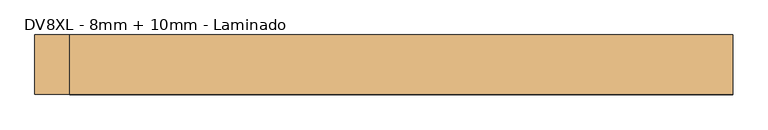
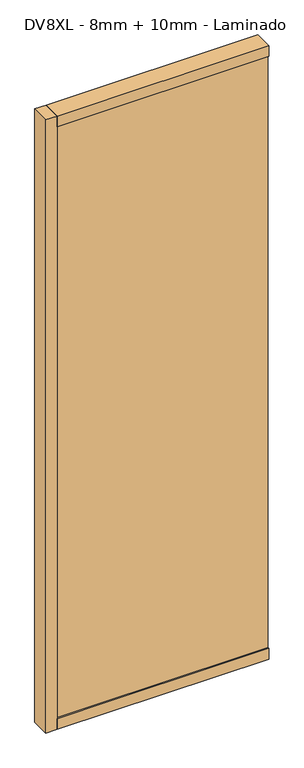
"""IFC4 building model written with IfcOpenShell, lengths in millimetres: door geometry, Mobiliário_Mobiliário de Escritório_Painel Vidro Duplo - DVDT, DVDL e DVXL (Inicial e Final)_Marelli : DV8XL - 8mm + 10mm - Laminado."""

from ifc_helpers import new_model, si_unit, frame, origin, origin_with_axes, place, context, project, spatial, polyline, outline, extrude, source, transform, mapped, element, save


def dv8xl_8mm_10mm_laminado_96504748(model_context):
    return source(origin(), model_context, "Body", "SweptSolid", [
        extrude(outline(polyline([(500.0, 42.5), (500.0, -42.5), (-450.0, -42.5), (-450.0, 42.5), (500.0, 42.5)])), origin_with_axes(), (0.0, 0.0, 1.0), 50.0),
        extrude(outline(polyline([(500.0, 42.5), (500.0, -42.5), (-450.0, -42.5), (-450.0, 42.5), (500.0, 42.5)])), frame((0.0, 0.0, 2850.0), z_axis=(0.0, 0.0, 1.0), x_axis=(1.0, 0.0, 0.0)), (0.0, 0.0, 1.0), 50.0),
        extrude(outline(polyline([(-500.0, -42.5), (-500.0, 42.5), (-450.0, 42.5), (-450.0, -42.5), (-500.0, -42.5)])), origin_with_axes(), (0.0, 0.0, 1.0), 2900.0),
        extrude(outline(polyline([(500.0, 33.1), (500.0, 25.1), (-450.0, 25.1), (-450.0, 33.1), (500.0, 33.1)])), frame((0.0, 0.0, 50.0), z_axis=(0.0, 0.0, 1.0), x_axis=(1.0, 0.0, 0.0)), (0.0, 0.0, 1.0), 2800.0),
        extrude(outline(polyline([(500.0, -35.1), (-450.0, -35.1), (-450.0, -25.1), (500.0, -25.1), (500.0, -35.1)])), frame((0.0, 0.0, 50.0), z_axis=(0.0, 0.0, 1.0), x_axis=(1.0, 0.0, 0.0)), (0.0, 0.0, 1.0), 2800.0),
    ])


if __name__ == "__main__":
    model = new_model("IFC4")
    model_context = context("Model", 3, world=origin())
    ifc_project = project(units=[si_unit("LENGTHUNIT", "METRE", prefix="MILLI")], contexts=[model_context])
    site = spatial("IfcSite", under=ifc_project)
    building = spatial("IfcBuilding", under=site)
    placement = place(None, origin())
    dv8xl_8mm_10mm_laminado_shape = dv8xl_8mm_10mm_laminado_96504748(model_context)
    element("IfcDoor", 1, ObjectType="Mobiliário_Mobiliário de Escritório_Painel Vidro Duplo - DVDT, DVDL e DVXL (Inicial e Final)_Marelli : DV8XL - 8mm + 10mm - Laminado", at=placement, inside=building, context=model_context, shape_type="MappedRepresentation", body=[
        mapped(dv8xl_8mm_10mm_laminado_shape, transform((0.0, 0.0, 0.0), x_axis=(1.0, 0.0, 0.0), y_axis=(0.0, 1.0, 0.0), z_axis=(0.0, 0.0, 1.0))),
    ])
    save(model, "model.ifc")
